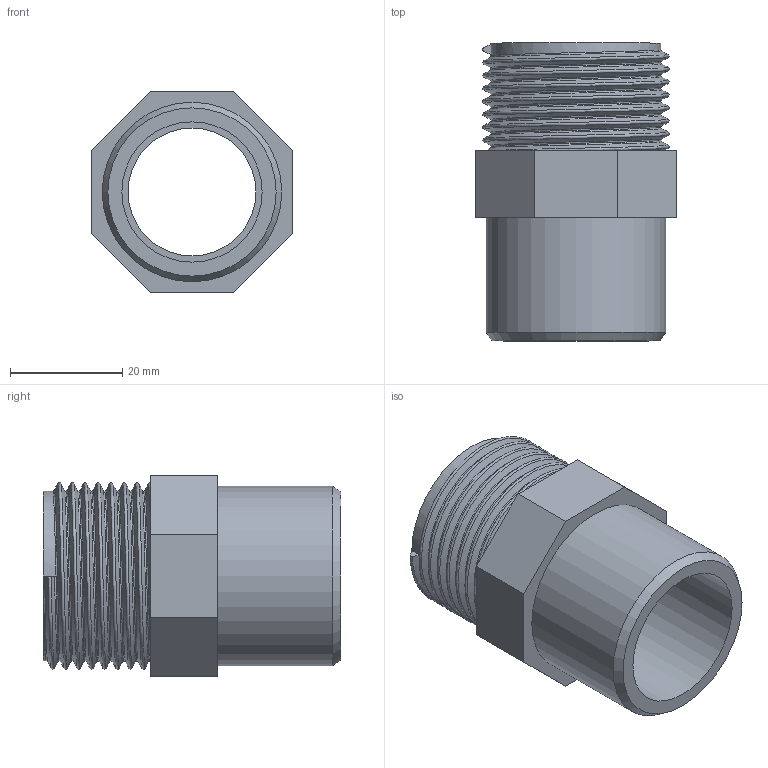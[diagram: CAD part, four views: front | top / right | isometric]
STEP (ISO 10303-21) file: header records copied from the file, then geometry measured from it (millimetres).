
FILE_DESCRIPTION(/* description */ ('PVC adattatore incollaggio-filettatura BSP maschio'),/* implementation_level */ '2;1');
FILE_NAME(/* name */ 'C:\Users\POLYPIPE\Desktop\DATASET INVENTOR\LIBRERIA EFFAST\RACCORDI 3DxWEB\RGR\3D_RGRAMG\3D_RGRAMG025D.stp',/* time_stamp */ '2018-01-19T17:35:02+01:00',/* author */ ('POLYPIPE'),/* organization */ ('Polypipe Italia s.r.l.'),/* preprocessor_version */ 'ST-DEVELOPER v16.1',/* originating_system */ 'Autodesk Inventor 2016',/* authorisation */ '');
FILE_SCHEMA (('CONFIG_CONTROL_DESIGN'));
Length unit declared in the file: millimetre
Products named in the file (1): 3D_RGRAMG
Bounding box: 36 x 53.1 x 36 mm (x, y, z)
Volume: 21411.5 mm3; surface area: 12018.5 mm2
Topology: 1 solids, 1 shells, 26 faces, 56 edges, 36 vertices
Faces by surface type: plane 15, cylinder 5, bspline 5, cone 1
Full cylindrical faces by diameter (mm): 22.8 x1, 23.8 x1, 25 x1, 30.291 x1, 32 x1
Entity records: 3695 total; most frequent: CARTESIAN_POINT 3142, ORIENTED_EDGE 102, DIRECTION 97, EDGE_CURVE 51, EDGE_LOOP 37, VERTEX_POINT 36, AXIS2_PLACEMENT_3D 35, LINE 27
